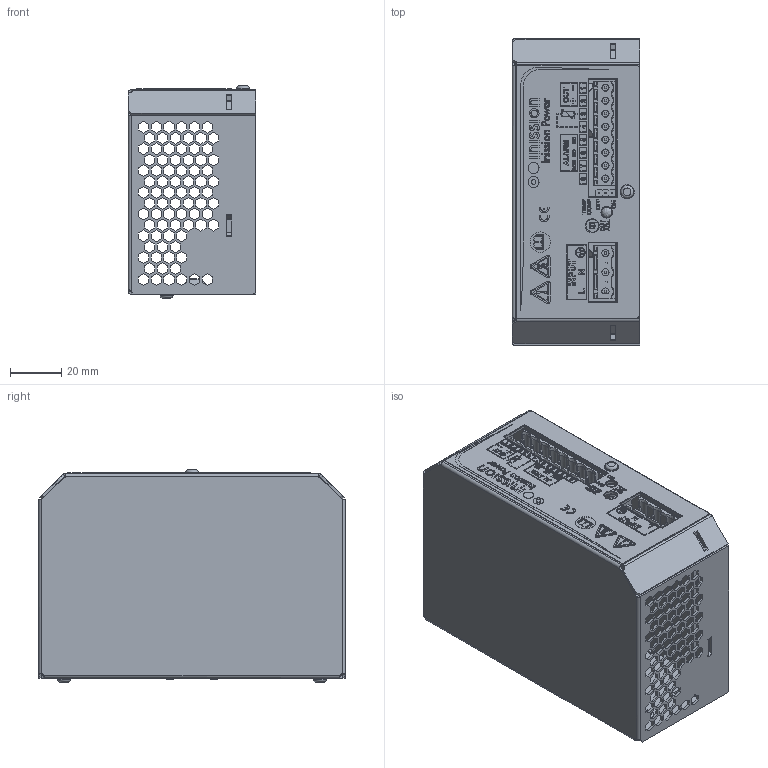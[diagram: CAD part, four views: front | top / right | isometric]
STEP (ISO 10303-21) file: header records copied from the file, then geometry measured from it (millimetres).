
FILE_DESCRIPTION (( 'STEP AP203' ), '1' );
FILE_NAME ('ADC-60W-3D-Model.STEP', '2026-05-19T12:36:02', ( '' ), ( '' ), 'SwSTEP 2.0', 'SolidWorks 2018', '' );
FILE_SCHEMA (( 'CONFIG_CONTROL_DESIGN' ));
Products named in the file (1): ADC-60W-3D-Model
Bounding box: 50 x 120 x 83 mm (x, y, z)
Volume: 53097.3 mm3; surface area: 114472.1 mm2
Topology: 98 solids, 98 shells, 3503 faces, 9417 edges, 6190 vertices
Faces by surface type: plane 2751, bspline 367, cylinder 308, cone 60, torus 17
Full cylindrical faces by diameter (mm): 0.138 x1, 0.38 x2, 0.731 x1, 1.85 x1, 2.5 x7, 2.8 x2, 3 x8, 3.3 x1, 3.5 x4, 3.8 x1, 3.869 x1, 4 x1, 4.2 x1, 4.22 x1, 4.25 x2, 4.5 x1, 5 x4, 5.12 x3, 5.39 x6, 5.4 x3, 5.5 x2, 6.3 x1, 7.938 x1
Entity records: 126089 total; most frequent: CARTESIAN_POINT 40253, ORIENTED_EDGE 18572, DIRECTION 15363, EDGE_CURVE 9286, VECTOR 7799, LINE 7799, VERTEX_POINT 6156, EDGE_LOOP 4188
